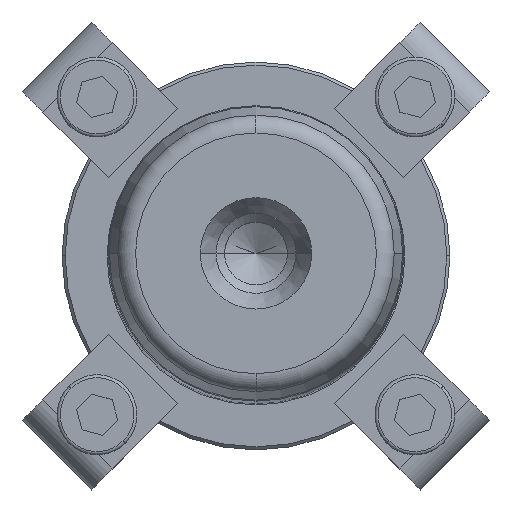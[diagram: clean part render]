
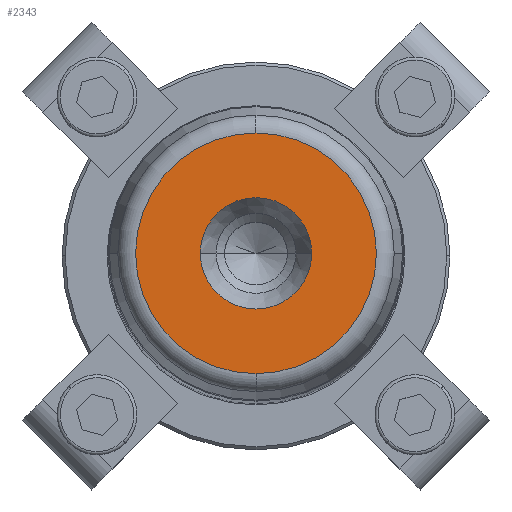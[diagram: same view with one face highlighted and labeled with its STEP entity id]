
A CAD part, top view. The second image highlights one B-rep face of the part: STEP entity #2343.
In plain terms, the highlighted planar face has unit normal (0, 0, 1).
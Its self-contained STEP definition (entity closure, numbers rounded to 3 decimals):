
#431=CARTESIAN_POINT('',(9.05,0.,250.0));
#432=VERTEX_POINT('',#431);
#439=CARTESIAN_POINT('',(-9.05,0.,250.0));
#440=VERTEX_POINT('',#439);
#441=CARTESIAN_POINT('',(0.0,0.,250.0));
#442=DIRECTION('',(0.0,0.0,1.0));
#443=DIRECTION('',(1.0,0.0,0.0));
#444=AXIS2_PLACEMENT_3D('',#441,#442,#443);
#445=CIRCLE('',#444,9.05);
#446=EDGE_CURVE('',#432,#440,#445,.T.);
#463=CARTESIAN_POINT('',(0.0,-19.554,250.0));
#464=VERTEX_POINT('',#463);
#474=CARTESIAN_POINT('',(0.,19.554,250.0));
#475=VERTEX_POINT('',#474);
#476=CARTESIAN_POINT('',(0.0,0.,250.0));
#477=DIRECTION('',(0.0,0.0,1.0));
#478=DIRECTION('',(1.0,0.0,0.0));
#479=AXIS2_PLACEMENT_3D('',#476,#477,#478);
#480=CIRCLE('',#479,19.554);
#481=EDGE_CURVE('',#475,#464,#480,.T.);
#2304=CARTESIAN_POINT('',(19.554,0.,250.0));
#2305=VERTEX_POINT('',#2304);
#2306=CARTESIAN_POINT('',(0.0,0.,250.0));
#2307=DIRECTION('',(0.0,0.0,1.0));
#2308=DIRECTION('',(1.0,0.0,0.0));
#2309=AXIS2_PLACEMENT_3D('',#2306,#2307,#2308);
#2310=CIRCLE('',#2309,19.554);
#2311=EDGE_CURVE('',#2305,#475,#2310,.T.);
#2313=CARTESIAN_POINT('',(0.0,0.,250.0));
#2314=DIRECTION('',(0.0,0.0,1.0));
#2315=DIRECTION('',(1.0,0.0,0.0));
#2316=AXIS2_PLACEMENT_3D('',#2313,#2314,#2315);
#2317=CIRCLE('',#2316,19.554);
#2318=EDGE_CURVE('',#464,#2305,#2317,.T.);
#2323=CARTESIAN_POINT('',(14.302,0.,250.0));
#2324=DIRECTION('',(0.0,0.0,1.0));
#2325=DIRECTION('',(0.0,-1.0,0.0));
#2326=AXIS2_PLACEMENT_3D('',#2323,#2324,#2325);
#2327=PLANE('',#2326);
#2328=ORIENTED_EDGE('',*,*,#2311,.T.);
#2329=ORIENTED_EDGE('',*,*,#481,.T.);
#2330=ORIENTED_EDGE('',*,*,#2318,.T.);
#2331=EDGE_LOOP('',(#2328,#2329,#2330));
#2332=FACE_OUTER_BOUND('',#2331,.T.);
#2333=ORIENTED_EDGE('',*,*,#446,.F.);
#2334=CARTESIAN_POINT('',(0.0,0.,250.0));
#2335=DIRECTION('',(0.0,0.0,1.0));
#2336=DIRECTION('',(1.0,0.0,0.0));
#2337=AXIS2_PLACEMENT_3D('',#2334,#2335,#2336);
#2338=CIRCLE('',#2337,9.05);
#2339=EDGE_CURVE('',#440,#432,#2338,.T.);
#2340=ORIENTED_EDGE('',*,*,#2339,.F.);
#2341=EDGE_LOOP('',(#2333,#2340));
#2342=FACE_BOUND('',#2341,.T.);
#2343=ADVANCED_FACE('',(#2332,#2342),#2327,.T.);
